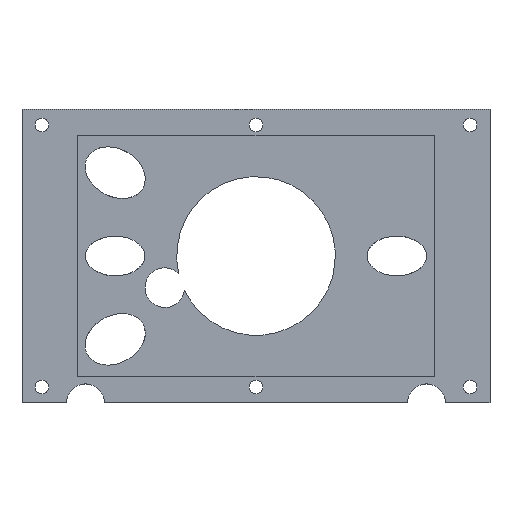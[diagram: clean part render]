
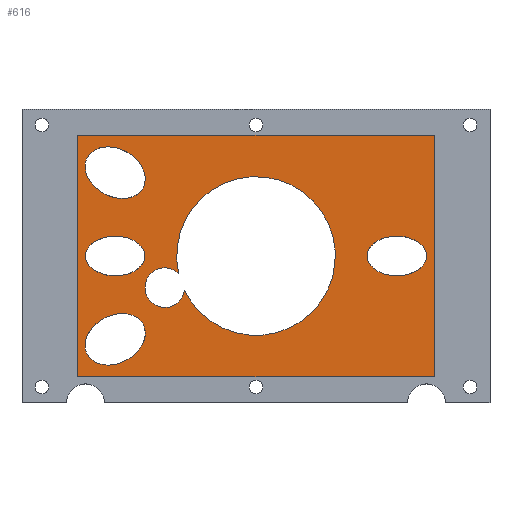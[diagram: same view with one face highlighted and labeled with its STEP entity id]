
A CAD part, top view. The second image highlights one B-rep face of the part: STEP entity #616.
In plain terms, the highlighted planar face has unit normal (0, 0, 1).
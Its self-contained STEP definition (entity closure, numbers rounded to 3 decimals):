
#38=ELLIPSE('',#676,7.5,5.);
#39=ELLIPSE('',#677,7.5,5.);
#40=ELLIPSE('',#678,8.,6.);
#41=ELLIPSE('',#679,8.,6.);
#48=FACE_BOUND('',#119,.T.);
#49=FACE_BOUND('',#120,.T.);
#50=FACE_BOUND('',#121,.T.);
#51=FACE_BOUND('',#122,.T.);
#52=FACE_BOUND('',#123,.T.);
#71=PLANE('',#674);
#85=FACE_OUTER_BOUND('',#118,.T.);
#118=EDGE_LOOP('',(#441,#442,#443,#444));
#119=EDGE_LOOP('',(#445,#446));
#120=EDGE_LOOP('',(#447));
#121=EDGE_LOOP('',(#448));
#122=EDGE_LOOP('',(#449));
#123=EDGE_LOOP('',(#450));
#174=CIRCLE('',#673,5.);
#175=CIRCLE('',#675,20.);
#201=LINE('',#931,#251);
#202=LINE('',#933,#252);
#203=LINE('',#935,#253);
#204=LINE('',#936,#254);
#251=VECTOR('',#748,1000.);
#252=VECTOR('',#749,1000.);
#253=VECTOR('',#750,1000.);
#254=VECTOR('',#751,1000.);
#300=VERTEX_POINT('',#921);
#302=VERTEX_POINT('',#925);
#303=VERTEX_POINT('',#929);
#304=VERTEX_POINT('',#930);
#305=VERTEX_POINT('',#932);
#306=VERTEX_POINT('',#934);
#307=VERTEX_POINT('',#938);
#308=VERTEX_POINT('',#940);
#309=VERTEX_POINT('',#942);
#310=VERTEX_POINT('',#944);
#356=EDGE_CURVE('',#300,#302,#174,.T.);
#357=EDGE_CURVE('',#303,#304,#201,.T.);
#358=EDGE_CURVE('',#304,#305,#202,.T.);
#359=EDGE_CURVE('',#305,#306,#203,.T.);
#360=EDGE_CURVE('',#306,#303,#204,.T.);
#361=EDGE_CURVE('',#302,#300,#175,.T.);
#362=EDGE_CURVE('',#307,#307,#38,.T.);
#363=EDGE_CURVE('',#308,#308,#39,.T.);
#364=EDGE_CURVE('',#309,#309,#40,.T.);
#365=EDGE_CURVE('',#310,#310,#41,.T.);
#441=ORIENTED_EDGE('',*,*,#357,.T.);
#442=ORIENTED_EDGE('',*,*,#358,.T.);
#443=ORIENTED_EDGE('',*,*,#359,.T.);
#444=ORIENTED_EDGE('',*,*,#360,.T.);
#445=ORIENTED_EDGE('',*,*,#356,.T.);
#446=ORIENTED_EDGE('',*,*,#361,.T.);
#447=ORIENTED_EDGE('',*,*,#362,.T.);
#448=ORIENTED_EDGE('',*,*,#363,.T.);
#449=ORIENTED_EDGE('',*,*,#364,.T.);
#450=ORIENTED_EDGE('',*,*,#365,.T.);
#616=ADVANCED_FACE('',(#85,#48,#49,#50,#51,#52),#71,.T.);
#673=AXIS2_PLACEMENT_3D('',#927,#744,#745);
#674=AXIS2_PLACEMENT_3D('',#928,#746,#747);
#675=AXIS2_PLACEMENT_3D('',#937,#752,#753);
#676=AXIS2_PLACEMENT_3D('',#939,#754,#755);
#677=AXIS2_PLACEMENT_3D('',#941,#756,#757);
#678=AXIS2_PLACEMENT_3D('',#943,#758,#759);
#679=AXIS2_PLACEMENT_3D('',#945,#760,#761);
#744=DIRECTION('center_axis',(0.,0.,-1.));
#745=DIRECTION('ref_axis',(-1.,0.,0.));
#746=DIRECTION('center_axis',(0.,0.,1.));
#747=DIRECTION('ref_axis',(1.,0.,0.));
#748=DIRECTION('',(0.,-1.,0.));
#749=DIRECTION('',(1.,0.,0.));
#750=DIRECTION('',(0.,1.,0.));
#751=DIRECTION('',(-1.,0.,0.));
#752=DIRECTION('center_axis',(0.,0.,-1.));
#753=DIRECTION('ref_axis',(1.,0.,0.));
#754=DIRECTION('center_axis',(0.,0.,-1.));
#755=DIRECTION('ref_axis',(1.,0.,0.));
#756=DIRECTION('center_axis',(0.,0.,-1.));
#757=DIRECTION('ref_axis',(-1.,0.,0.));
#758=DIRECTION('center_axis',(0.,0.,-1.));
#759=DIRECTION('ref_axis',(-0.877,-0.48,0.));
#760=DIRECTION('center_axis',(0.,0.,-1.));
#761=DIRECTION('ref_axis',(-0.877,0.48,0.));
#921=CARTESIAN_POINT('',(-18.04,-8.634,1.5));
#925=CARTESIAN_POINT('',(-19.504,-4.425,1.5));
#927=CARTESIAN_POINT('Origin',(-23.,-8.,1.5));
#928=CARTESIAN_POINT('Origin',(0.,0.,1.5));
#929=CARTESIAN_POINT('',(-45.,30.5,1.5));
#930=CARTESIAN_POINT('',(-45.,-30.5,1.5));
#931=CARTESIAN_POINT('',(-45.,-30.5,1.5));
#932=CARTESIAN_POINT('',(45.,-30.5,1.5));
#933=CARTESIAN_POINT('',(45.,-30.5,1.5));
#934=CARTESIAN_POINT('',(45.,30.5,1.5));
#935=CARTESIAN_POINT('',(45.,-30.5,1.5));
#936=CARTESIAN_POINT('',(45.,30.5,1.5));
#937=CARTESIAN_POINT('Origin',(0.,0.,1.5));
#938=CARTESIAN_POINT('',(28.,0.,1.5));
#939=CARTESIAN_POINT('Origin',(35.5,0.,1.5));
#940=CARTESIAN_POINT('',(-28.,0.,1.5));
#941=CARTESIAN_POINT('Origin',(-35.5,0.,1.5));
#942=CARTESIAN_POINT('',(-28.483,-17.157,1.5));
#943=CARTESIAN_POINT('Origin',(-35.5,-21.,1.5));
#944=CARTESIAN_POINT('',(-28.483,17.157,1.5));
#945=CARTESIAN_POINT('Origin',(-35.5,21.,1.5));
